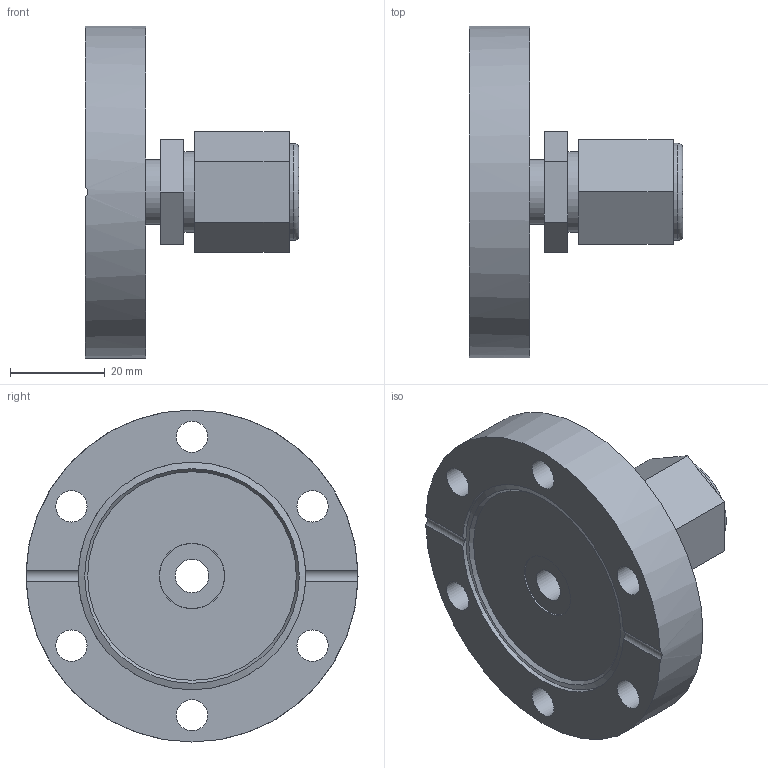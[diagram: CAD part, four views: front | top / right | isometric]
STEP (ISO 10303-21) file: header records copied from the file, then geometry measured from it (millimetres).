
FILE_DESCRIPTION( ( 'Unknown' ), '1' );
FILE_NAME( 'X:/Daten ( aktueller Bestand )/Projekte und Zeichnungen/Solid Edge/STP-Dateien/CF-Teile/7552-12.stp', 'Unknown', ( 'Unknown' ), ( 'Unknown' ), 'PSStep 14.0', 'Unknown', ' ' );
FILE_SCHEMA( ( 'AUTOMOTIVE_DESIGN { 1 0 10303 214 1 1 1 1 }' ) );
Length unit declared in the file: millimetre
Products named in the file (3): Assem1; 12x1-4; 7552-6.1
Assembly tree (2 placements, depth 2):
  Assem1
    12x1-4
    7552-6.1
Bounding box: 45 x 70 x 70 mm (x, y, z)
Volume: 52648.5 mm3; surface area: 17276.1 mm2
Topology: 2 solids, 2 shells, 42 faces, 105 edges, 72 vertices
Faces by surface type: plane 23, cylinder 16, cone 2, torus 1
Full cylindrical faces by diameter (mm): 6.6 x6, 7.1 x1, 12 x1, 13.7 x1, 13.8 x1, 17 x1, 20.5 x1, 48 x1, 70 x1
Entity records: 1562 total; most frequent: CARTESIAN_POINT 237, DIRECTION 198, ORIENTED_EDGE 156, EDGE_LOOP 80, AXIS2_PLACEMENT_3D 79, EDGE_CURVE 78, VERTEX_POINT 62, FACE_OUTER_BOUND 57
